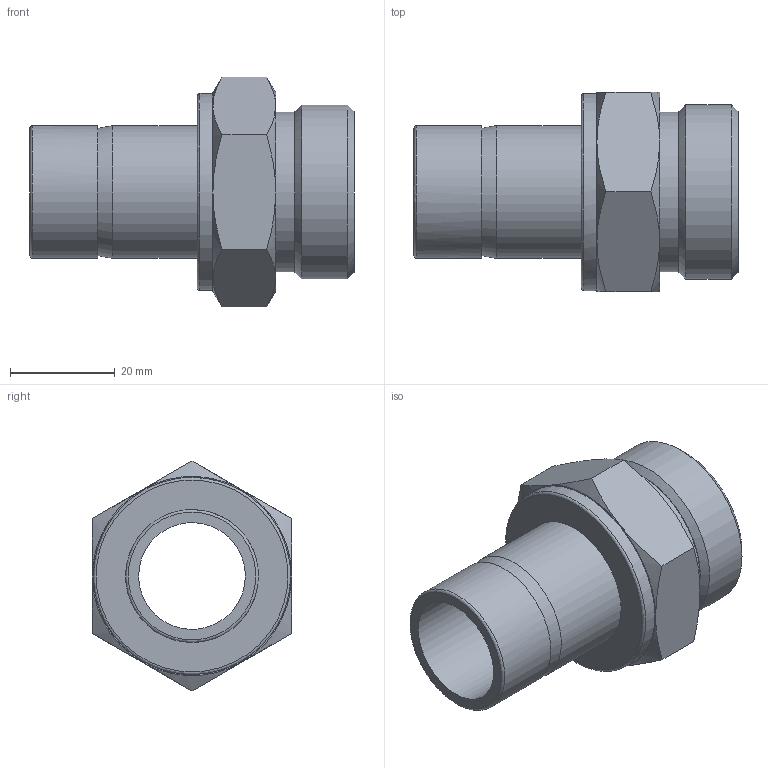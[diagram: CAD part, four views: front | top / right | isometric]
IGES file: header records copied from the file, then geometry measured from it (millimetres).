
Global section: file name: SSMA-16-16U; native system: Autodesk Inventor 2016; preprocessor: unknown; author: DESIGNPC2; date: 20160125.083658; units: millimetre
Bounding box: 62 x 38.1 x 43.99 mm (x, y, z)
Volume: 26604.6 mm3; surface area: 11835.7 mm2
Topology: 1 solids, 1 shells, 37 faces, 92 edges, 62 vertices
Faces by surface type: bspline 37
